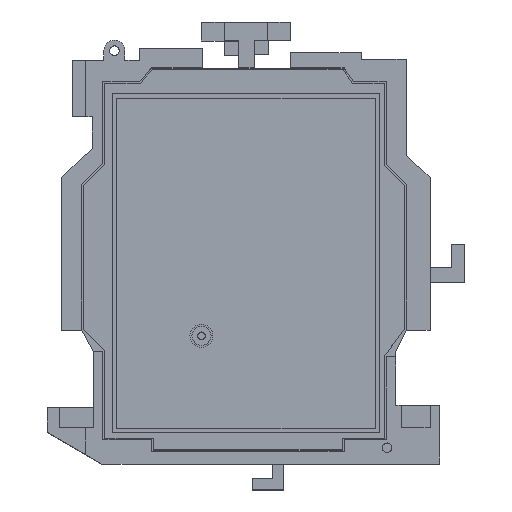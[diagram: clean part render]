
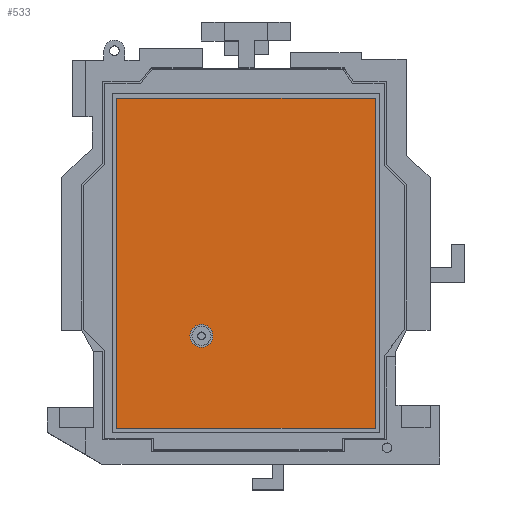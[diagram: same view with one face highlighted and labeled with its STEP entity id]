
A CAD part, top view. The second image highlights one B-rep face of the part: STEP entity #533.
In plain terms, the highlighted planar face has unit normal (0, 0, 1).
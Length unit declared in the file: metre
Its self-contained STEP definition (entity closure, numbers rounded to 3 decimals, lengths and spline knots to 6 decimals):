
#533=ADVANCED_FACE('37:50',(#1088,#1089),#1090,.F.);
#1088=FACE_BOUND('',#1645,.T.);
#1089=FACE_OUTER_BOUND('',#1646,.T.);
#1090=PLANE('',#1647);
#1645=EDGE_LOOP('',(#2998));
#1646=EDGE_LOOP('',(#2999,#3000,#3001,#3002));
#1647=AXIS2_PLACEMENT_3D('',#3003,#3004,#3005);
#2998=ORIENTED_EDGE('',*,*,#3713,.F.);
#2999=ORIENTED_EDGE('',*,*,#3731,.F.);
#3000=ORIENTED_EDGE('',*,*,#3739,.F.);
#3001=ORIENTED_EDGE('',*,*,#3726,.F.);
#3002=ORIENTED_EDGE('',*,*,#3722,.F.);
#3003=CARTESIAN_POINT('',(-0.01945,0.021335,0.0086));
#3004=DIRECTION('',(-0.0,0.0,-1.0));
#3005=DIRECTION('',(-1.0,-0.0,0.0));
#3713=EDGE_CURVE('37:119',#4540,#4540,#4541,.T.);
#3722=EDGE_CURVE('37:176',#4555,#4557,#4558,.T.);
#3726=EDGE_CURVE('37:173',#4557,#4563,#4564,.T.);
#3731=EDGE_CURVE('37:179',#4570,#4555,#4572,.T.);
#3739=EDGE_CURVE('37:170',#4563,#4570,#4582,.T.);
#4540=VERTEX_POINT('',#5728);
#4541=CIRCLE('',#5729,0.0012);
#4555=VERTEX_POINT('',#5747);
#4557=VERTEX_POINT('',#5750);
#4558=LINE('',#5751,#5752);
#4563=VERTEX_POINT('',#5759);
#4564=LINE('',#5760,#5761);
#4570=VERTEX_POINT('',#5769);
#4572=LINE('',#5772,#5773);
#4582=LINE('',#5788,#5789);
#5728=CARTESIAN_POINT('',(-0.0227,0.0134,0.0086));
#5729=AXIS2_PLACEMENT_3D('',#6368,#6369,#6370);
#5747=CARTESIAN_POINT('',(-0.00575,0.00375,0.0086));
#5750=CARTESIAN_POINT('',(-0.03275,0.00375,0.0086));
#5751=CARTESIAN_POINT('',(-0.01945,0.00375,0.0086));
#5752=VECTOR('',#6379,1.0);
#5759=CARTESIAN_POINT('',(-0.03275,0.03825,0.0086));
#5760=CARTESIAN_POINT('',(-0.03275,0.021335,0.0086));
#5761=VECTOR('',#6382,1.0);
#5769=CARTESIAN_POINT('',(-0.00575,0.03825,0.0086));
#5772=CARTESIAN_POINT('',(-0.00575,0.021335,0.0086));
#5773=VECTOR('',#6386,1.0);
#5788=CARTESIAN_POINT('',(-0.01945,0.03825,0.0086));
#5789=VECTOR('',#6392,1.0);
#6368=CARTESIAN_POINT('',(-0.0239,0.0134,0.0086));
#6369=DIRECTION('',(0.0,-0.0,1.0));
#6370=DIRECTION('',(1.0,0.0,-0.0));
#6379=DIRECTION('',(-1.0,0.0,0.0));
#6382=DIRECTION('',(0.0,1.0,0.0));
#6386=DIRECTION('',(-0.0,-1.0,0.0));
#6392=DIRECTION('',(1.0,0.0,0.0));
